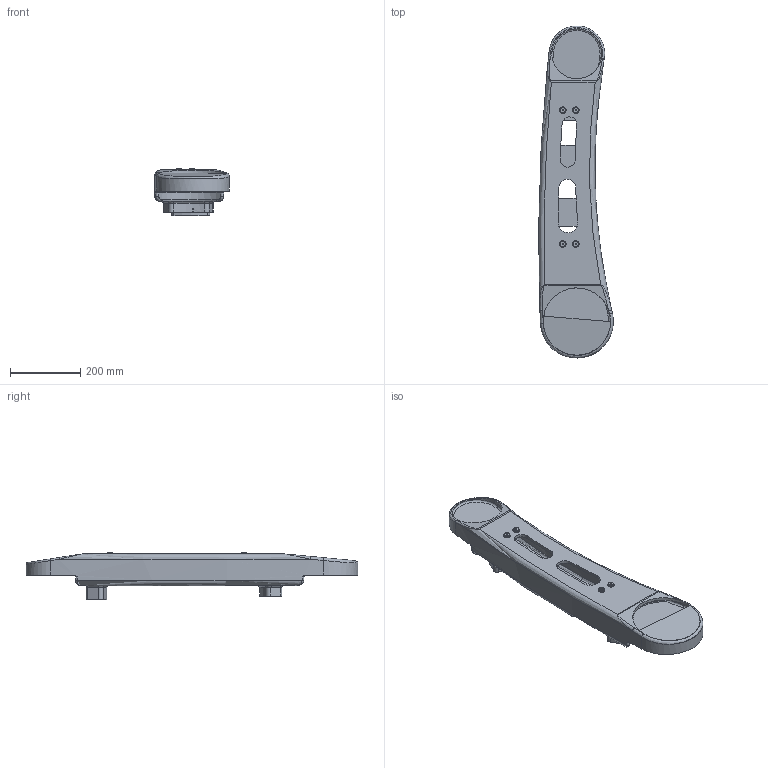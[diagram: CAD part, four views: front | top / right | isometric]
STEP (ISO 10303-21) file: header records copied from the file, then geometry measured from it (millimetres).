
FILE_DESCRIPTION (( 'STEP AP203' ), '1' );
FILE_NAME ('TKB3670-03.STEP', '2023-07-17T01:46:28', ( '1' ), ( '1' ), 'SwSTEP 2.0', 'SolidWorks 2018', '' );
FILE_SCHEMA (( 'CONFIG_CONTROL_DESIGN' ));
Length unit declared in the file: millimetre
Products named in the file (1): TKB3670-03
Bounding box: 211.81 x 942.43 x 135 mm (x, y, z)
Volume: 4190581.1 mm3; surface area: 738702.1 mm2
Topology: 1 solids, 1 shells, 259 faces, 658 edges, 402 vertices
Faces by surface type: cylinder 115, torus 60, plane 44, bspline 32, cone 8
Entity records: 10799 total; most frequent: CARTESIAN_POINT 4498, DIRECTION 1386, ORIENTED_EDGE 1308, EDGE_CURVE 654, AXIS2_PLACEMENT_3D 597, VERTEX_POINT 402, CIRCLE 369, EDGE_LOOP 284
